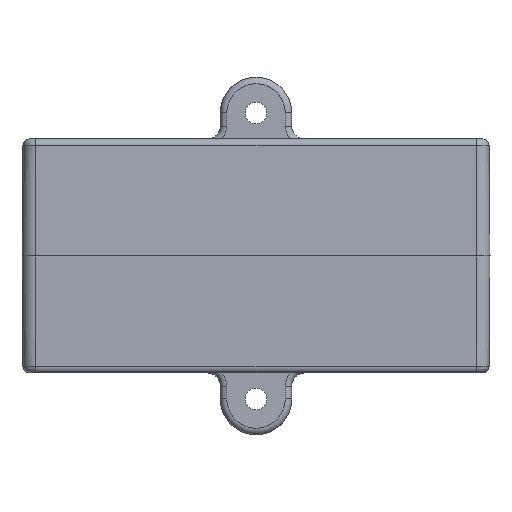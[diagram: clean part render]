
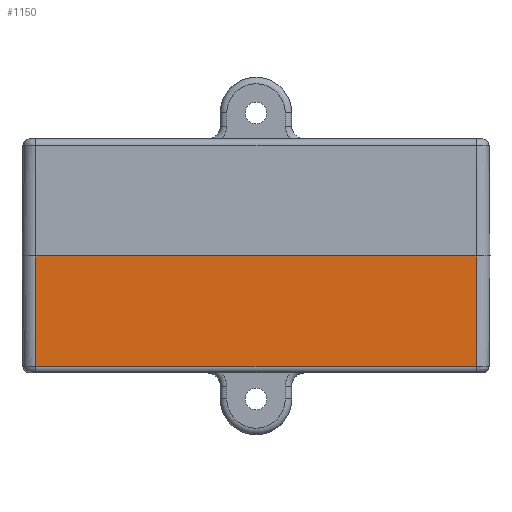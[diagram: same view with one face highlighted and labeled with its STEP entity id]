
A CAD part, front view. The second image highlights one B-rep face of the part: STEP entity #1150.
In plain terms, the highlighted planar face has unit normal (0, -1, -0.009).
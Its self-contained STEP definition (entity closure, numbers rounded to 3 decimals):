
#388=FACE_OUTER_BOUND('',#2511,.T.);
#1150=ADVANCED_FACE('',(#388),#1846,.T.);
#1846=PLANE('',#13791);
#2511=EDGE_LOOP('',(#4009,#4010,#4011,#4012));
#4009=ORIENTED_EDGE('',*,*,#9067,.T.);
#4010=ORIENTED_EDGE('',*,*,#9113,.F.);
#4011=ORIENTED_EDGE('',*,*,#9114,.F.);
#4012=ORIENTED_EDGE('',*,*,#9115,.F.);
#7779=VERTEX_POINT('',#19218);
#7780=VERTEX_POINT('',#19220);
#7817=VERTEX_POINT('',#19335);
#7818=VERTEX_POINT('',#19337);
#9067=EDGE_CURVE('',#7780,#7779,#10912,.T.);
#9113=EDGE_CURVE('',#7817,#7779,#10953,.T.);
#9114=EDGE_CURVE('',#7818,#7817,#10954,.T.);
#9115=EDGE_CURVE('',#7780,#7818,#10955,.T.);
#10912=LINE('',#19219,#12514);
#10953=LINE('',#19334,#12555);
#10954=LINE('',#19336,#12556);
#10955=LINE('',#19338,#12557);
#12514=VECTOR('',#15197,1.);
#12555=VECTOR('',#15248,1.);
#12556=VECTOR('',#15249,1.);
#12557=VECTOR('',#15250,1.);
#13791=AXIS2_PLACEMENT_3D('',#19339,#15251,#15252);
#15197=DIRECTION('',(-1.,0.,0.));
#15248=DIRECTION('',(-0.009,-0.009,1.));
#15249=DIRECTION('',(-1.,0.,0.));
#15250=DIRECTION('',(-0.009,0.009,-1.));
#15251=DIRECTION('',(0.,-1.,-0.009));
#15252=DIRECTION('',(0.,-0.009,1.));
#19218=CARTESIAN_POINT('',(66.,-51.5,0.));
#19219=CARTESIAN_POINT('',(141.,-51.5,0.));
#19220=CARTESIAN_POINT('',(134.,-51.5,0.));
#19334=CARTESIAN_POINT('',(66.006,-51.494,-0.715));
#19335=CARTESIAN_POINT('',(66.148,-51.352,-17.009));
#19336=CARTESIAN_POINT('',(59.157,-51.352,-17.009));
#19337=CARTESIAN_POINT('',(133.852,-51.352,-17.009));
#19338=CARTESIAN_POINT('',(133.994,-51.494,-0.715));
#19339=CARTESIAN_POINT('',(141.,-51.5,0.));
